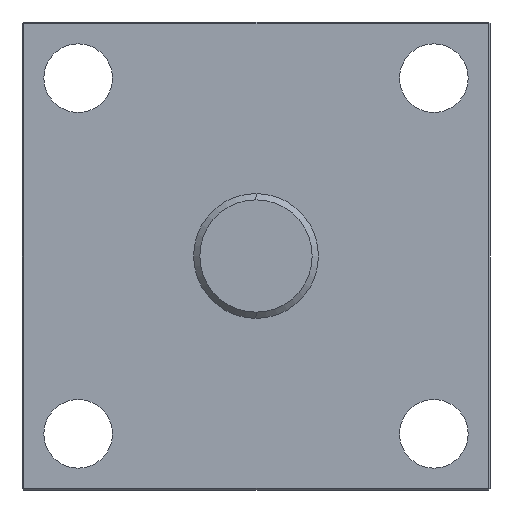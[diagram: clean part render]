
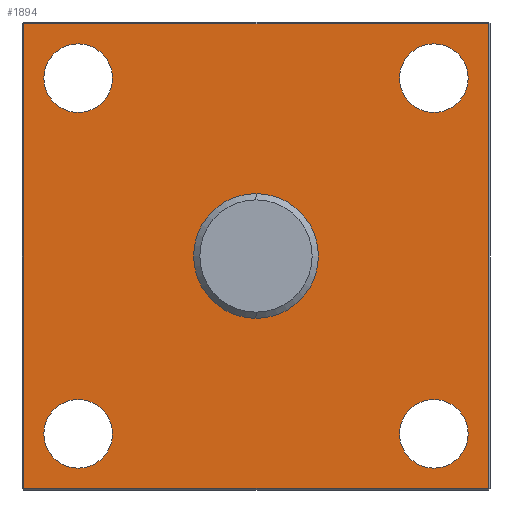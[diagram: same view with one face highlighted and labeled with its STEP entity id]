
A CAD part, left-side view. The second image highlights one B-rep face of the part: STEP entity #1894.
In plain terms, the highlighted planar face has unit normal (-1, 0, 0).
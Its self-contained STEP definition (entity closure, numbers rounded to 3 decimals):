
#65 = CARTESIAN_POINT ( 'NONE',  ( -14.5, 0., -74.5 ) ) ;
#67 = CARTESIAN_POINT ( 'NONE',  ( -14.5, 74.5, -74.5 ) ) ;
#86 = VERTEX_POINT ( 'NONE', #746 ) ;
#127 = CARTESIAN_POINT ( 'NONE',  ( -14.5, -57., 68. ) ) ;
#159 = EDGE_CURVE ( 'NONE', #536, #86, #1618, .T. ) ;
#187 = DIRECTION ( 'NONE',  ( 0., -1., 0. ) ) ;
#242 = AXIS2_PLACEMENT_3D ( 'NONE', #2153, #2493, #2018 ) ;
#272 = DIRECTION ( 'NONE',  ( 0., 0., -1. ) ) ;
#298 = ORIENTED_EDGE ( 'NONE', *, *, #1369, .T. ) ;
#306 = FACE_BOUND ( 'NONE', #1001, .T. ) ;
#334 = CARTESIAN_POINT ( 'NONE',  ( -14.5, -57., -68. ) ) ;
#352 = AXIS2_PLACEMENT_3D ( 'NONE', #1374, #2070, #888 ) ;
#371 = ORIENTED_EDGE ( 'NONE', *, *, #1830, .T. ) ;
#388 = DIRECTION ( 'NONE',  ( 0., 0., -1. ) ) ;
#421 = CIRCLE ( 'NONE', #242, 11. ) ;
#428 = EDGE_CURVE ( 'NONE', #813, #1443, #2331, .T. ) ;
#446 = EDGE_LOOP ( 'NONE', ( #1496, #298 ) ) ;
#473 = CARTESIAN_POINT ( 'NONE',  ( -14.5, 57., -68. ) ) ;
#476 = EDGE_CURVE ( 'NONE', #2251, #2135, #548, .T. ) ;
#483 = CARTESIAN_POINT ( 'NONE',  ( -14.5, -57., -57. ) ) ;
#495 = AXIS2_PLACEMENT_3D ( 'NONE', #483, #843, #388 ) ;
#514 = DIRECTION ( 'NONE',  ( 1., 0., 0. ) ) ;
#529 = FACE_BOUND ( 'NONE', #2741, .T. ) ;
#536 = VERTEX_POINT ( 'NONE', #1014 ) ;
#539 = AXIS2_PLACEMENT_3D ( 'NONE', #2285, #514, #702 ) ;
#541 = ORIENTED_EDGE ( 'NONE', *, *, #476, .T. ) ;
#548 = LINE ( 'NONE', #1231, #1729 ) ;
#553 = DIRECTION ( 'NONE',  ( 0., 0., -1. ) ) ;
#620 = DIRECTION ( 'NONE',  ( 0., 0., -1. ) ) ;
#626 = VECTOR ( 'NONE', #187, 1000. ) ;
#631 = AXIS2_PLACEMENT_3D ( 'NONE', #1752, #1613, #272 ) ;
#636 = VERTEX_POINT ( 'NONE', #2442 ) ;
#653 = EDGE_CURVE ( 'NONE', #2300, #686, #2102, .T. ) ;
#668 = ORIENTED_EDGE ( 'NONE', *, *, #1424, .T. ) ;
#686 = VERTEX_POINT ( 'NONE', #1836 ) ;
#702 = DIRECTION ( 'NONE',  ( 0., 0., -1. ) ) ;
#738 = CARTESIAN_POINT ( 'NONE',  ( -14.5, 57., -57. ) ) ;
#746 = CARTESIAN_POINT ( 'NONE',  ( -14.5, 57., 68. ) ) ;
#751 = CARTESIAN_POINT ( 'NONE',  ( -14.5, 57., 57. ) ) ;
#813 = VERTEX_POINT ( 'NONE', #473 ) ;
#814 = EDGE_CURVE ( 'NONE', #1907, #2251, #2677, .T. ) ;
#825 = CARTESIAN_POINT ( 'NONE',  ( -14.5, 74.5, 0. ) ) ;
#843 = DIRECTION ( 'NONE',  ( 1., 0., 0. ) ) ;
#854 = EDGE_CURVE ( 'NONE', #2733, #1442, #2207, .T. ) ;
#859 = VERTEX_POINT ( 'NONE', #334 ) ;
#888 = DIRECTION ( 'NONE',  ( 0., 0., -1. ) ) ;
#908 = DIRECTION ( 'NONE',  ( 1., 0., 0. ) ) ;
#967 = DIRECTION ( 'NONE',  ( 0., 0., 1. ) ) ;
#981 = ORIENTED_EDGE ( 'NONE', *, *, #854, .T. ) ;
#982 = VECTOR ( 'NONE', #967, 1000. ) ;
#997 = CIRCLE ( 'NONE', #539, 20. ) ;
#1001 = EDGE_LOOP ( 'NONE', ( #1749, #1991 ) ) ;
#1014 = CARTESIAN_POINT ( 'NONE',  ( -14.5, 57., 46. ) ) ;
#1018 = DIRECTION ( 'NONE',  ( 1., 0., 0. ) ) ;
#1039 = DIRECTION ( 'NONE',  ( 0., 0., -1. ) ) ;
#1075 = ORIENTED_EDGE ( 'NONE', *, *, #2279, .T. ) ;
#1085 = CARTESIAN_POINT ( 'NONE',  ( -14.5, 74.5, 74.5 ) ) ;
#1103 = DIRECTION ( 'NONE',  ( 1., 0., 0. ) ) ;
#1112 = CARTESIAN_POINT ( 'NONE',  ( -14.5, 57., -46. ) ) ;
#1180 = DIRECTION ( 'NONE',  ( 1., 0., 0. ) ) ;
#1216 = CIRCLE ( 'NONE', #352, 11. ) ;
#1231 = CARTESIAN_POINT ( 'NONE',  ( -14.5, 0., 74.5 ) ) ;
#1327 = DIRECTION ( 'NONE',  ( 0., 0., -1. ) ) ;
#1346 = FACE_OUTER_BOUND ( 'NONE', #2642, .T. ) ;
#1359 = EDGE_CURVE ( 'NONE', #2135, #1465, #1921, .T. ) ;
#1360 = DIRECTION ( 'NONE',  ( 0., 0., -1. ) ) ;
#1369 = EDGE_CURVE ( 'NONE', #1443, #813, #2550, .T. ) ;
#1374 = CARTESIAN_POINT ( 'NONE',  ( -14.5, 57., 57. ) ) ;
#1424 = EDGE_CURVE ( 'NONE', #1465, #1907, #2587, .T. ) ;
#1442 = VERTEX_POINT ( 'NONE', #2101 ) ;
#1443 = VERTEX_POINT ( 'NONE', #1112 ) ;
#1450 = DIRECTION ( 'NONE',  ( 0., 0., -1. ) ) ;
#1465 = VERTEX_POINT ( 'NONE', #67 ) ;
#1496 = ORIENTED_EDGE ( 'NONE', *, *, #428, .T. ) ;
#1523 = CARTESIAN_POINT ( 'NONE',  ( -14.5, 0., 0. ) ) ;
#1547 = AXIS2_PLACEMENT_3D ( 'NONE', #751, #1018, #553 ) ;
#1613 = DIRECTION ( 'NONE',  ( 1., 0., 0. ) ) ;
#1618 = CIRCLE ( 'NONE', #1547, 11. ) ;
#1645 = ORIENTED_EDGE ( 'NONE', *, *, #159, .T. ) ;
#1659 = CARTESIAN_POINT ( 'NONE',  ( -14.5, 57., -57. ) ) ;
#1725 = AXIS2_PLACEMENT_3D ( 'NONE', #2016, #2196, #1327 ) ;
#1729 = VECTOR ( 'NONE', #2195, 1000. ) ;
#1749 = ORIENTED_EDGE ( 'NONE', *, *, #653, .T. ) ;
#1750 = EDGE_CURVE ( 'NONE', #1442, #2733, #421, .T. ) ;
#1752 = CARTESIAN_POINT ( 'NONE',  ( -14.5, 0., 0. ) ) ;
#1755 = DIRECTION ( 'NONE',  ( 0., 0., -1. ) ) ;
#1773 = EDGE_CURVE ( 'NONE', #686, #2300, #997, .T. ) ;
#1788 = CARTESIAN_POINT ( 'NONE',  ( -14.5, -57., -57. ) ) ;
#1790 = AXIS2_PLACEMENT_3D ( 'NONE', #738, #1103, #1450 ) ;
#1830 = EDGE_CURVE ( 'NONE', #86, #536, #1216, .T. ) ;
#1836 = CARTESIAN_POINT ( 'NONE',  ( -14.5, 0., 20. ) ) ;
#1861 = DIRECTION ( 'NONE',  ( 1., 0., 0. ) ) ;
#1883 = CIRCLE ( 'NONE', #495, 11. ) ;
#1894 = ADVANCED_FACE ( 'NONE', ( #1346, #306, #529, #2126, #1950, #2647 ), #2700, .F. ) ;
#1907 = VERTEX_POINT ( 'NONE', #2217 ) ;
#1918 = ORIENTED_EDGE ( 'NONE', *, *, #2080, .T. ) ;
#1921 = LINE ( 'NONE', #825, #2099 ) ;
#1950 = FACE_BOUND ( 'NONE', #2074, .T. ) ;
#1991 = ORIENTED_EDGE ( 'NONE', *, *, #1773, .T. ) ;
#2011 = ORIENTED_EDGE ( 'NONE', *, *, #814, .T. ) ;
#2016 = CARTESIAN_POINT ( 'NONE',  ( -14.5, -57., 57. ) ) ;
#2018 = DIRECTION ( 'NONE',  ( 0., 0., -1. ) ) ;
#2027 = AXIS2_PLACEMENT_3D ( 'NONE', #1788, #908, #1039 ) ;
#2032 = AXIS2_PLACEMENT_3D ( 'NONE', #1523, #1861, #620 ) ;
#2042 = CARTESIAN_POINT ( 'NONE',  ( -14.5, 0., -20. ) ) ;
#2070 = DIRECTION ( 'NONE',  ( 1., 0., 0. ) ) ;
#2074 = EDGE_LOOP ( 'NONE', ( #1645, #371 ) ) ;
#2080 = EDGE_CURVE ( 'NONE', #859, #636, #2501, .T. ) ;
#2099 = VECTOR ( 'NONE', #1755, 1000. ) ;
#2101 = CARTESIAN_POINT ( 'NONE',  ( -14.5, -57., 46. ) ) ;
#2102 = CIRCLE ( 'NONE', #631, 20. ) ;
#2103 = CARTESIAN_POINT ( 'NONE',  ( -14.5, -74.5, 74.5 ) ) ;
#2126 = FACE_BOUND ( 'NONE', #2522, .T. ) ;
#2135 = VERTEX_POINT ( 'NONE', #1085 ) ;
#2142 = ORIENTED_EDGE ( 'NONE', *, *, #1750, .T. ) ;
#2146 = CARTESIAN_POINT ( 'NONE',  ( -14.5, -74.5, 0. ) ) ;
#2153 = CARTESIAN_POINT ( 'NONE',  ( -14.5, -57., 57. ) ) ;
#2173 = AXIS2_PLACEMENT_3D ( 'NONE', #1659, #1180, #1360 ) ;
#2195 = DIRECTION ( 'NONE',  ( 0., 1., 0. ) ) ;
#2196 = DIRECTION ( 'NONE',  ( 1., 0., 0. ) ) ;
#2207 = CIRCLE ( 'NONE', #1725, 11. ) ;
#2217 = CARTESIAN_POINT ( 'NONE',  ( -14.5, -74.5, -74.5 ) ) ;
#2251 = VERTEX_POINT ( 'NONE', #2103 ) ;
#2279 = EDGE_CURVE ( 'NONE', #636, #859, #1883, .T. ) ;
#2285 = CARTESIAN_POINT ( 'NONE',  ( -14.5, 0., 0. ) ) ;
#2300 = VERTEX_POINT ( 'NONE', #2042 ) ;
#2331 = CIRCLE ( 'NONE', #2173, 11. ) ;
#2442 = CARTESIAN_POINT ( 'NONE',  ( -14.5, -57., -46. ) ) ;
#2493 = DIRECTION ( 'NONE',  ( 1., 0., 0. ) ) ;
#2501 = CIRCLE ( 'NONE', #2027, 11. ) ;
#2522 = EDGE_LOOP ( 'NONE', ( #2142, #981 ) ) ;
#2550 = CIRCLE ( 'NONE', #1790, 11. ) ;
#2552 = ORIENTED_EDGE ( 'NONE', *, *, #1359, .T. ) ;
#2587 = LINE ( 'NONE', #65, #626 ) ;
#2642 = EDGE_LOOP ( 'NONE', ( #2552, #668, #2011, #541 ) ) ;
#2647 = FACE_BOUND ( 'NONE', #446, .T. ) ;
#2677 = LINE ( 'NONE', #2146, #982 ) ;
#2700 = PLANE ( 'NONE',  #2032 ) ;
#2733 = VERTEX_POINT ( 'NONE', #127 ) ;
#2741 = EDGE_LOOP ( 'NONE', ( #1918, #1075 ) ) ;
